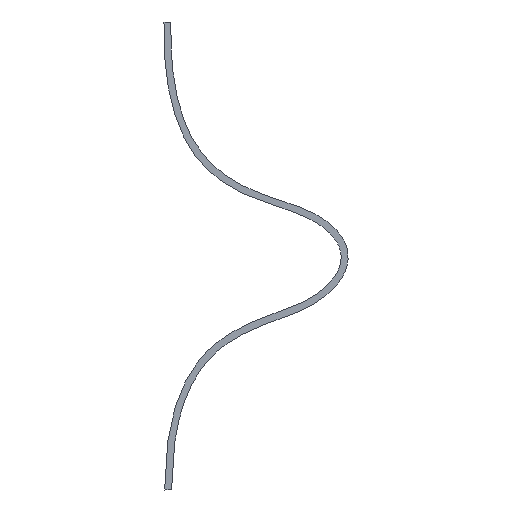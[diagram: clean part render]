
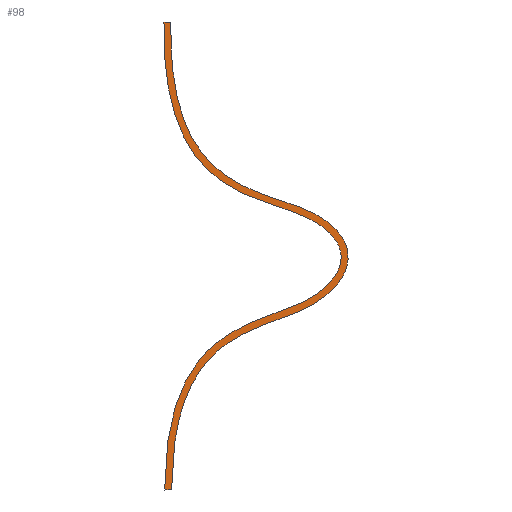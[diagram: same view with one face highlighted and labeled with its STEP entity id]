
A CAD part, left-side view. The second image highlights one B-rep face of the part: STEP entity #98.
In plain terms, the highlighted planar face has unit normal (-1, 0, 0).
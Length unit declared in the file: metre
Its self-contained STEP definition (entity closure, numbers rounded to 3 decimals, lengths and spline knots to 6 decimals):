
#13=B_SPLINE_CURVE_WITH_KNOTS('',3,(#195,#196,#197,#198,#199,#200,#201),
 .UNSPECIFIED.,.F.,.F.,(4,1,1,1,4),(0.,0.331601,0.500775,
0.66372,1.),.UNSPECIFIED.);
#15=B_SPLINE_CURVE_WITH_KNOTS('',3,(#301,#302,#303,#304,#305,#306,#307,
#308,#309,#310,#311,#312,#313,#314,#315,#316,#317,#318,#319,#320,#321,#322,
#323,#324,#325,#326,#327,#328,#329,#330,#331,#332,#333,#334,#335,#336,#337,
#338,#339,#340,#341),.UNSPECIFIED.,.F.,.F.,(4,1,1,1,1,1,1,1,1,1,1,1,1,1,
1,1,1,1,1,1,1,1,1,1,1,1,1,1,1,1,1,1,1,1,1,1,1,1,4),(0.,0.0625,0.09375,0.125,
0.15625,0.1875,0.21875,0.25,0.28125,0.296875,0.3125,0.328125,0.34375,0.359375,
0.375,0.40625,0.4375,0.46875,0.484375,0.5,0.515625,0.53125,0.5625,0.59375,
0.625,0.640625,0.65625,0.671875,0.6875,0.703125,0.71875,0.75,0.78125,0.8125,
0.84375,0.875,0.90625,0.9375,1.),.UNSPECIFIED.);
#34=ORIENTED_EDGE('',*,*,#44,.T.);
#35=ORIENTED_EDGE('',*,*,#48,.T.);
#36=ORIENTED_EDGE('',*,*,#51,.T.);
#37=ORIENTED_EDGE('',*,*,#53,.T.);
#44=EDGE_CURVE('',#57,#56,#64,.T.);
#48=EDGE_CURVE('',#56,#59,#13,.F.);
#51=EDGE_CURVE('',#59,#61,#69,.T.);
#53=EDGE_CURVE('',#61,#57,#15,.T.);
#56=VERTEX_POINT('',#141);
#57=VERTEX_POINT('',#143);
#59=VERTEX_POINT('',#194);
#61=VERTEX_POINT('',#206);
#64=LINE('',#142,#72);
#69=LINE('',#207,#77);
#72=VECTOR('',#123,1.);
#77=VECTOR('',#130,1.);
#82=EDGE_LOOP('',(#34,#35,#36,#37));
#88=FACE_BOUND('',#82,.T.);
#92=PLANE('',#115);
#98=ADVANCED_FACE('',(#88),#92,.T.);
#115=AXIS2_PLACEMENT_3D('',#342,#131,#132);
#123=DIRECTION('',(0.,1.,0.024));
#130=DIRECTION('',(0.,-1.,0.));
#131=DIRECTION('',(-1.,0.,0.));
#132=DIRECTION('',(0.,1.,0.008));
#141=CARTESIAN_POINT('',(-0.044177,0.033311,0.021397));
#142=CARTESIAN_POINT('',(-0.044177,0.031922,0.021364));
#143=CARTESIAN_POINT('',(-0.044177,0.031922,0.021364));
#194=CARTESIAN_POINT('',(-0.044177,0.033177,-0.072303));
#195=CARTESIAN_POINT('',(-0.044177,0.033177,-0.072303));
#196=CARTESIAN_POINT('',(-0.044177,0.033183,-0.039866));
#197=CARTESIAN_POINT('',(-0.044177,0.006518,-0.039265));
#198=CARTESIAN_POINT('',(-0.044177,-0.005021,-0.025583));
#199=CARTESIAN_POINT('',(-0.044177,0.006383,-0.013366));
#200=CARTESIAN_POINT('',(-0.044177,0.034121,-0.0127));
#201=CARTESIAN_POINT('',(-0.044177,0.033311,0.021397));
#206=CARTESIAN_POINT('',(-0.044177,0.031787,-0.072303));
#207=CARTESIAN_POINT('',(-0.044177,0.033177,-0.072303));
#301=CARTESIAN_POINT('',(-0.044177,0.031787,-0.072303));
#302=CARTESIAN_POINT('',(-0.044177,0.031788,-0.066284));
#303=CARTESIAN_POINT('',(-0.044177,0.030861,-0.059));
#304=CARTESIAN_POINT('',(-0.044177,0.028345,-0.052041));
#305=CARTESIAN_POINT('',(-0.044177,0.025958,-0.047989));
#306=CARTESIAN_POINT('',(-0.044177,0.023189,-0.044883));
#307=CARTESIAN_POINT('',(-0.044177,0.020129,-0.042514));
#308=CARTESIAN_POINT('',(-0.044177,0.016866,-0.040699));
#309=CARTESIAN_POINT('',(-0.044177,0.013504,-0.039272));
#310=CARTESIAN_POINT('',(-0.044177,0.010717,-0.038264));
#311=CARTESIAN_POINT('',(-0.044177,0.008552,-0.037477));
#312=CARTESIAN_POINT('',(-0.044177,0.006977,-0.036872));
#313=CARTESIAN_POINT('',(-0.044177,0.00546,-0.036227));
#314=CARTESIAN_POINT('',(-0.044177,0.004022,-0.035511));
#315=CARTESIAN_POINT('',(-0.044177,0.002696,-0.034737));
#316=CARTESIAN_POINT('',(-0.044177,0.001073,-0.033631));
#317=CARTESIAN_POINT('',(-0.044177,-0.000668,-0.03212));
#318=CARTESIAN_POINT('',(-0.044177,-0.00226,-0.030131));
#319=CARTESIAN_POINT('',(-0.044177,-0.003123,-0.028339));
#320=CARTESIAN_POINT('',(-0.044177,-0.003488,-0.026843));
#321=CARTESIAN_POINT('',(-0.044177,-0.003583,-0.025701));
#322=CARTESIAN_POINT('',(-0.044177,-0.003487,-0.024561));
#323=CARTESIAN_POINT('',(-0.044177,-0.003115,-0.023085));
#324=CARTESIAN_POINT('',(-0.044177,-0.002224,-0.021353));
#325=CARTESIAN_POINT('',(-0.044177,-0.000585,-0.019497));
#326=CARTESIAN_POINT('',(-0.044177,0.001199,-0.01813));
#327=CARTESIAN_POINT('',(-0.044177,0.002859,-0.017143));
#328=CARTESIAN_POINT('',(-0.044177,0.004217,-0.016457));
#329=CARTESIAN_POINT('',(-0.044177,0.005687,-0.015829));
#330=CARTESIAN_POINT('',(-0.044177,0.007231,-0.015257));
#331=CARTESIAN_POINT('',(-0.044177,0.008839,-0.014709));
#332=CARTESIAN_POINT('',(-0.044177,0.011047,-0.013978));
#333=CARTESIAN_POINT('',(-0.044177,0.013891,-0.013006));
#334=CARTESIAN_POINT('',(-0.044177,0.017317,-0.011571));
#335=CARTESIAN_POINT('',(-0.044177,0.020633,-0.009702));
#336=CARTESIAN_POINT('',(-0.044177,0.023727,-0.007233));
#337=CARTESIAN_POINT('',(-0.044177,0.026506,-0.003983));
#338=CARTESIAN_POINT('',(-0.044177,0.028868,0.000261));
#339=CARTESIAN_POINT('',(-0.044177,0.031294,0.007537));
#340=CARTESIAN_POINT('',(-0.044177,0.03207,0.015121));
#341=CARTESIAN_POINT('',(-0.044177,0.031922,0.021364));
#342=CARTESIAN_POINT('',(-0.044177,-0.002161,-0.025701));
